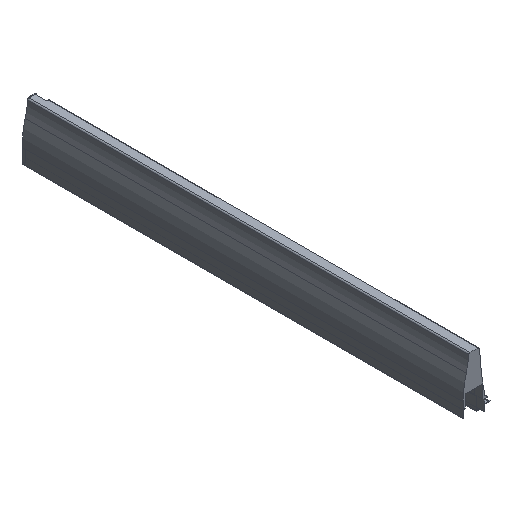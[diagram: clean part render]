
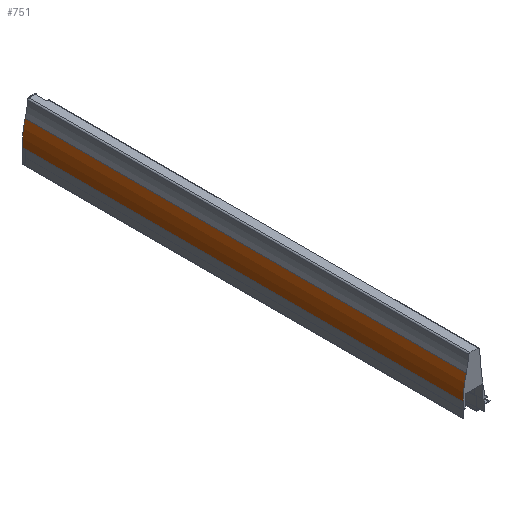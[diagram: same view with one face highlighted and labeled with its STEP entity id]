
A CAD part, isometric view. The second image highlights one B-rep face of the part: STEP entity #751.
In plain terms, the highlighted cylindrical face has radius 130.3 mm (diameter 260.6 mm), a partial arc.
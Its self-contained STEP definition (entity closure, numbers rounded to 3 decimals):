
#417 = CIRCLE ( 'NONE', #1885, 130.3 ) ;
#595 = CIRCLE ( 'NONE', #1996, 130.3 ) ;
#675 = LINE ( 'NONE', #4283, #676 ) ;
#676 = VECTOR ( 'NONE', #4284, 1000. ) ;
#751 = ADVANCED_FACE ( 'NONE', ( #4907 ), #4904, .T. ) ;
#1336 = EDGE_LOOP ( 'NONE', ( #5202, #5201, #5200, #5199 ) ) ;
#1653 = VECTOR ( 'NONE', #3442, 1000. ) ;
#1765 = EDGE_CURVE ( 'NONE', #2473, #2495, #4625, .T. ) ;
#1885 = AXIS2_PLACEMENT_3D ( 'NONE', #3967, #3977, #3978 ) ;
#1996 = AXIS2_PLACEMENT_3D ( 'NONE', #4180, #4185, #4186 ) ;
#2136 = EDGE_CURVE ( 'NONE', #2473, #2472, #417, .T. ) ;
#2161 = AXIS2_PLACEMENT_3D ( 'NONE', #2807, #2806, #2805 ) ;
#2277 = EDGE_CURVE ( 'NONE', #2495, #2496, #595, .T. ) ;
#2350 = EDGE_CURVE ( 'NONE', #2472, #2496, #675, .T. ) ;
#2472 = VERTEX_POINT ( 'NONE', #4412 ) ;
#2473 = VERTEX_POINT ( 'NONE', #4413 ) ;
#2495 = VERTEX_POINT ( 'NONE', #4435 ) ;
#2496 = VERTEX_POINT ( 'NONE', #4436 ) ;
#2805 = DIRECTION ( 'NONE',  ( -1., 0., 0. ) ) ;
#2806 = DIRECTION ( 'NONE',  ( 0., -1., 0. ) ) ;
#2807 = CARTESIAN_POINT ( 'NONE',  ( 126.2, 640., -7.695 ) ) ;
#3437 = CARTESIAN_POINT ( 'NONE',  ( 0.401, 640., 26.255 ) ) ;
#3442 = DIRECTION ( 'NONE',  ( 0., -1., 0. ) ) ;
#3967 = CARTESIAN_POINT ( 'NONE',  ( 126.2, 640., -7.695 ) ) ;
#3977 = DIRECTION ( 'NONE',  ( 0., -1., 0. ) ) ;
#3978 = DIRECTION ( 'NONE',  ( 1., 0., 0. ) ) ;
#4180 = CARTESIAN_POINT ( 'NONE',  ( 126.2, 0., -7.695 ) ) ;
#4185 = DIRECTION ( 'NONE',  ( 0., -1., 0. ) ) ;
#4186 = DIRECTION ( 'NONE',  ( 1., 0., 0. ) ) ;
#4283 = CARTESIAN_POINT ( 'NONE',  ( -4.1, 640., -7.695 ) ) ;
#4284 = DIRECTION ( 'NONE',  ( 0., -1., 0. ) ) ;
#4412 = CARTESIAN_POINT ( 'NONE',  ( -4.1, 640., -7.695 ) ) ;
#4413 = CARTESIAN_POINT ( 'NONE',  ( 0.401, 640., 26.255 ) ) ;
#4435 = CARTESIAN_POINT ( 'NONE',  ( 0.401, 0., 26.255 ) ) ;
#4436 = CARTESIAN_POINT ( 'NONE',  ( -4.1, 0., -7.695 ) ) ;
#4625 = LINE ( 'NONE', #3437, #1653 ) ;
#4904 = CYLINDRICAL_SURFACE ( 'NONE', #2161, 130.3 ) ;
#4907 = FACE_OUTER_BOUND ( 'NONE', #1336, .T. ) ;
#5199 = ORIENTED_EDGE ( 'NONE', *, *, #2350, .T. ) ;
#5200 = ORIENTED_EDGE ( 'NONE', *, *, #2136, .T. ) ;
#5201 = ORIENTED_EDGE ( 'NONE', *, *, #1765, .F. ) ;
#5202 = ORIENTED_EDGE ( 'NONE', *, *, #2277, .F. ) ;
